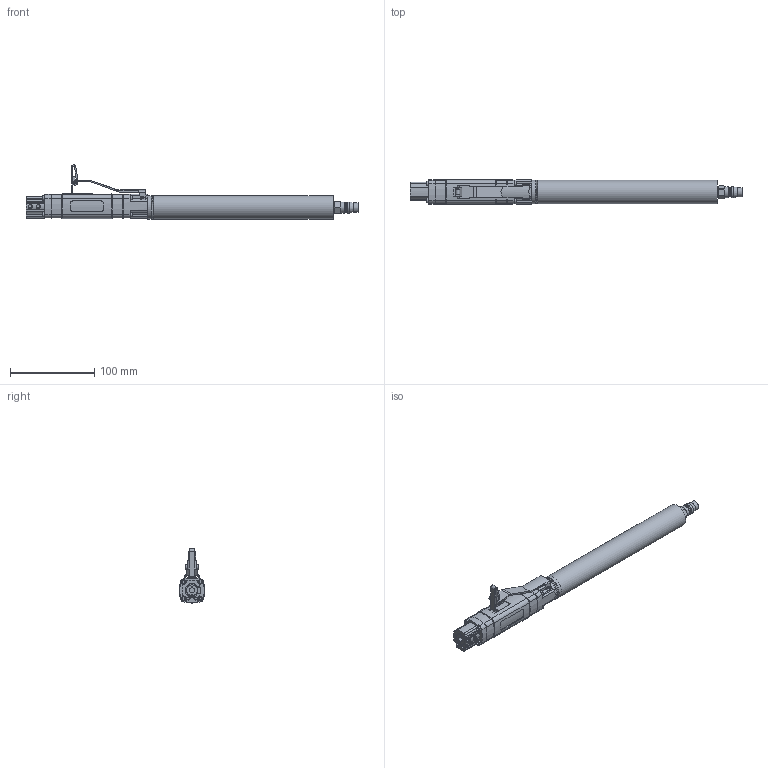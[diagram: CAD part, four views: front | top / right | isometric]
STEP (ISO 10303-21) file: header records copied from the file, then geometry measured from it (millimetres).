
FILE_DESCRIPTION(/* description */ (''),/* implementation_level */ '2;1');
FILE_NAME(/* name */ '',/* time_stamp */ '2026-07-02T08:17:05+09:00',/* author */ (''),/* organization */ (''),/* preprocessor_version */ 'ST-DEVELOPER v20.1',/* originating_system */ 'Autodesk Translation Framework v15.8.0.0',/* authorisation */ '');
FILE_SCHEMA (('AUTOMOTIVE_DESIGN { 1 0 10303 214 3 1 1 }'));
Length unit declared in the file: millimetre
Products named in the file (2): 2026-07-01-14-22-23-280; 2026-07-02-07-55-45-717
Assembly tree (1 placements, depth 2):
  2026-07-01-14-22-23-280
    2026-07-02-07-55-45-717
Bounding box: 393.8 x 29.66 x 64.25 mm (x, y, z)
Volume: 177044.2 mm3; surface area: 113948.1 mm2
Topology: 29 solids, 30 shells, 609 faces, 1556 edges, 1032 vertices
Faces by surface type: cylinder 278, plane 277, bspline 24, cone 17, torus 13
Full cylindrical faces by diameter (mm): 1.4 x1, 1.5 x4, 2 x2, 2.2 x2, 3 x3, 3.705 x2, 4.234 x2, 5 x2, 5.12 x2, 5.45 x8, 6.3 x1, 7.6 x1, 7.7 x1, 9 x1, 10.85 x1, 11 x1, 11.445 x9, 12 x4, 12.9 x2, 13.1 x2, 13.2 x3, 13.4 x1, 14 x3, 15.4 x1, 15.8 x1, 16 x1, 22 x2, 26.4 x4, 27.8 x2
Entity records: 25774 total; most frequent: CARTESIAN_POINT 10660, DIRECTION 3148, ORIENTED_EDGE 3112, EDGE_CURVE 1556, AXIS2_PLACEMENT_3D 1191, VERTEX_POINT 1032, LINE 766, VECTOR 766
